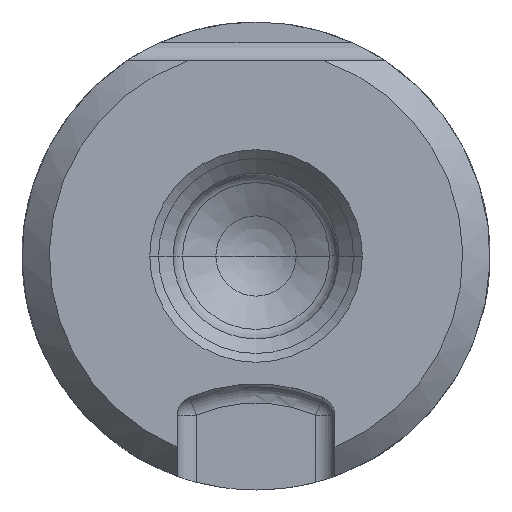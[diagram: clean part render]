
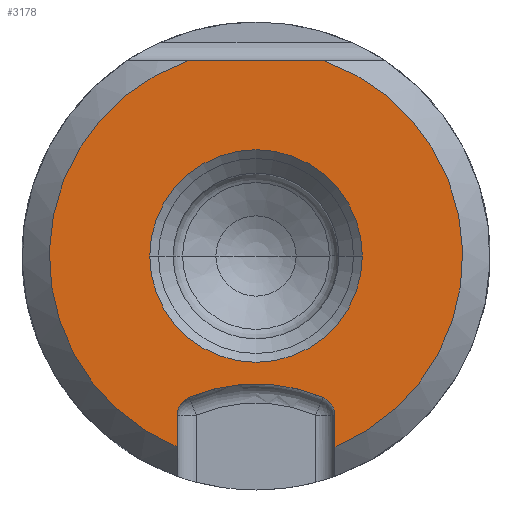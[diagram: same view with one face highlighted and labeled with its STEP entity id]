
A CAD part, left-side view. The second image highlights one B-rep face of the part: STEP entity #3178.
In plain terms, the highlighted planar face has unit normal (-1, 0, 0).
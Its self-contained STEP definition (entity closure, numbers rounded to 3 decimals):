
#776=DIRECTION('',(0.,1.,0.));
#777=VECTOR('',#776,3.516);
#778=CARTESIAN_POINT('',(-22.,4.242,5.));
#779=LINE('',#778,#777);
#780=CARTESIAN_POINT('',(-22.,6.,0.));
#781=DIRECTION('',(1.,0.,0.));
#782=DIRECTION('',(0.,-0.332,0.943));
#783=AXIS2_PLACEMENT_3D('',#780,#781,#782);
#785=CARTESIAN_POINT('',(-22.,4.475,-4.09));
#786=DIRECTION('',(-1.,0.,0.));
#787=DIRECTION('',(0.,-1.,0.));
#788=AXIS2_PLACEMENT_3D('',#785,#786,#787);
#790=CARTESIAN_POINT('',(-22.,6.,-7.626));
#791=DIRECTION('',(-1.,0.,0.));
#792=DIRECTION('',(0.,-0.396,0.918));
#793=AXIS2_PLACEMENT_3D('',#790,#791,#792);
#795=CARTESIAN_POINT('',(-22.,7.525,-4.09));
#796=DIRECTION('',(-1.,0.,0.));
#797=DIRECTION('',(0.,0.396,0.918));
#798=AXIS2_PLACEMENT_3D('',#795,#796,#797);
#800=CARTESIAN_POINT('',(-22.,6.,0.));
#801=DIRECTION('',(1.,0.,0.));
#802=DIRECTION('',(0.,0.382,-0.924));
#803=AXIS2_PLACEMENT_3D('',#800,#801,#802);
#805=CARTESIAN_POINT('',(-22.,6.,0.));
#806=DIRECTION('',(-1.,0.,0.));
#807=DIRECTION('',(0.,1.,0.));
#808=AXIS2_PLACEMENT_3D('',#805,#806,#807);
#810=CARTESIAN_POINT('',(-22.,6.,0.));
#811=DIRECTION('',(-1.,0.,0.));
#812=DIRECTION('',(0.,-1.,0.));
#813=AXIS2_PLACEMENT_3D('',#810,#811,#812);
#827=DIRECTION('',(0.,0.,-1.));
#828=VECTOR('',#827,0.808);
#829=CARTESIAN_POINT('',(-22.,3.975,-4.09));
#830=LINE('',#829,#828);
#875=DIRECTION('',(0.,0.,1.));
#876=VECTOR('',#875,0.808);
#877=CARTESIAN_POINT('',(-22.,8.025,-4.898));
#878=LINE('',#877,#876);
#1691=CARTESIAN_POINT('',(-22.,4.242,5.));
#1692=CARTESIAN_POINT('',(-22.,7.758,5.));
#1693=VERTEX_POINT('',#1691);
#1694=VERTEX_POINT('',#1692);
#1695=CARTESIAN_POINT('',(-22.,3.975,-4.898));
#1696=VERTEX_POINT('',#1695);
#1697=CARTESIAN_POINT('',(-22.,3.975,-4.09));
#1698=VERTEX_POINT('',#1697);
#1699=CARTESIAN_POINT('',(-22.,4.277,-3.631));
#1700=VERTEX_POINT('',#1699);
#1701=CARTESIAN_POINT('',(-22.,7.723,-3.631));
#1702=VERTEX_POINT('',#1701);
#1703=CARTESIAN_POINT('',(-22.,8.025,-4.09));
#1704=VERTEX_POINT('',#1703);
#1705=CARTESIAN_POINT('',(-22.,8.025,-4.898));
#1706=VERTEX_POINT('',#1705);
#1707=CARTESIAN_POINT('',(-22.,8.725,0.));
#1708=CARTESIAN_POINT('',(-22.,3.275,0.));
#1709=VERTEX_POINT('',#1707);
#1710=VERTEX_POINT('',#1708);
#3150=CARTESIAN_POINT('',(-22.,12.25,-6.25));
#3151=DIRECTION('',(-1.,0.,0.));
#3152=DIRECTION('',(0.,-1.,0.));
#3153=AXIS2_PLACEMENT_3D('',#3150,#3151,#3152);
#3154=PLANE('',#3153);
#3155=ORIENTED_EDGE('',*,*,#3138,.F.);
#3157=ORIENTED_EDGE('',*,*,#3156,.T.);
#3159=ORIENTED_EDGE('',*,*,#3158,.F.);
#3161=ORIENTED_EDGE('',*,*,#3160,.T.);
#3163=ORIENTED_EDGE('',*,*,#3162,.T.);
#3165=ORIENTED_EDGE('',*,*,#3164,.T.);
#3167=ORIENTED_EDGE('',*,*,#3166,.F.);
#3169=ORIENTED_EDGE('',*,*,#3168,.T.);
#3170=EDGE_LOOP('',(#3155,#3157,#3159,#3161,#3163,#3165,#3167,#3169));
#3171=FACE_OUTER_BOUND('',#3170,.F.);
#3173=ORIENTED_EDGE('',*,*,#3172,.T.);
#3175=ORIENTED_EDGE('',*,*,#3174,.T.);
#3176=EDGE_LOOP('',(#3173,#3175));
#3177=FACE_BOUND('',#3176,.F.);
#3178=ADVANCED_FACE('',(#3171,#3177),#3154,.T.);
#784=CIRCLE('',#783,5.3);
#789=CIRCLE('',#788,0.5);
#794=CIRCLE('',#793,4.351);
#799=CIRCLE('',#798,0.5);
#804=CIRCLE('',#803,5.3);
#809=CIRCLE('',#808,2.725);
#814=CIRCLE('',#813,2.725);
#3138=EDGE_CURVE('',#1693,#1694,#779,.T.);
#3156=EDGE_CURVE('',#1693,#1696,#784,.T.);
#3158=EDGE_CURVE('',#1698,#1696,#830,.T.);
#3160=EDGE_CURVE('',#1698,#1700,#789,.T.);
#3162=EDGE_CURVE('',#1700,#1702,#794,.T.);
#3164=EDGE_CURVE('',#1702,#1704,#799,.T.);
#3166=EDGE_CURVE('',#1706,#1704,#878,.T.);
#3168=EDGE_CURVE('',#1706,#1694,#804,.T.);
#3172=EDGE_CURVE('',#1709,#1710,#809,.T.);
#3174=EDGE_CURVE('',#1710,#1709,#814,.T.);
